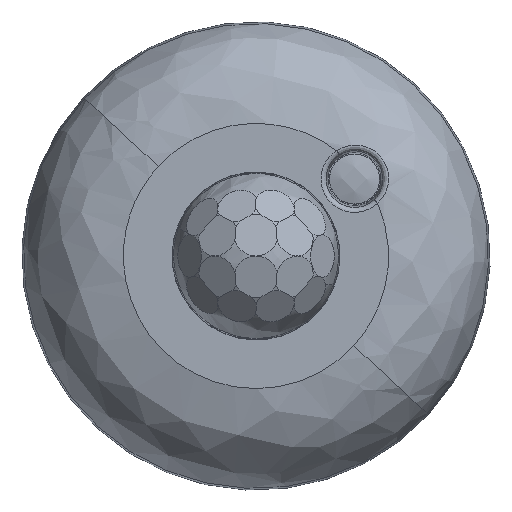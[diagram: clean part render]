
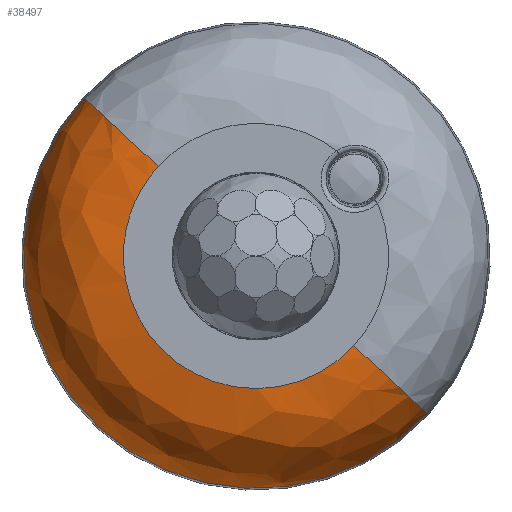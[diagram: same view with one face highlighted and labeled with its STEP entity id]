
A CAD part, front view. The second image highlights one B-rep face of the part: STEP entity #38497.
In plain terms, the highlighted free-form (B-spline) face has degree [3, 3] with [4, 4] control points.
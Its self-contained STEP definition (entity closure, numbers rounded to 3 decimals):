
#276 = VERTEX_POINT ( 'NONE', #60065 ) ;
#1166 = DIRECTION ( 'NONE',  ( -1., 0., 0. ) ) ;
#3761 = CARTESIAN_POINT ( 'NONE',  ( -15.913, -5.539, -7.956 ) ) ;
#4251 = CARTESIAN_POINT ( 'NONE',  ( -22.654, -5.539, -11.327 ) ) ;
#7626 = CARTESIAN_POINT ( 'NONE',  ( 0., 0.461, -7.956 ) ) ;
#10813 = DIRECTION ( 'NONE',  ( 0., 0., 1. ) ) ;
#12055 = CIRCLE ( 'NONE', #57267, 6. ) ;
#14224 = CARTESIAN_POINT ( 'NONE',  ( 0., -5.539, 7.956 ) ) ;
#14803 = CARTESIAN_POINT ( 'NONE',  ( 0., 0.147, 13.948 ) ) ;
#15044 = CARTESIAN_POINT ( 'NONE',  ( -27.897, 0.147, -13.948 ) ) ;
#18815 = EDGE_CURVE ( 'NONE', #30839, #68624, #53705, .T. ) ;
#21555 = CARTESIAN_POINT ( 'NONE',  ( 0., -5.539, -7.956 ) ) ;
#24270 = EDGE_CURVE ( 'NONE', #68801, #276, #12055, .T. ) ;
#24334 =( BOUNDED_SURFACE ( )  B_SPLINE_SURFACE ( 3, 3, ( 
 ( #43850, #15044, #72248, #26558 ),
 ( #49656, #27304, #38078, #55170 ),
 ( #55673, #4251, #67435, #38324 ),
 ( #21555, #3761, #32812, #66440 ) ),
 .UNSPECIFIED., .F., .F., .F. ) 
 B_SPLINE_SURFACE_WITH_KNOTS ( ( 4, 4 ),
 ( 4, 4 ),
 ( 0., 1. ),
 ( 0., 1. ),
 .UNSPECIFIED. ) 
 GEOMETRIC_REPRESENTATION_ITEM ( )  RATIONAL_B_SPLINE_SURFACE ( (
 ( 1., 0.333, 0.333, 1.),
 ( 0.817, 0.272, 0.272, 0.817),
 ( 0.817, 0.272, 0.272, 0.817),
 ( 1., 0.333, 0.333, 1.) ) ) 
 REPRESENTATION_ITEM ( '' )  SURFACE ( )  );
#24859 = EDGE_LOOP ( 'NONE', ( #38420, #45674, #52589, #51976 ) ) ;
#24930 = DIRECTION ( 'NONE',  ( 0., 0., -1. ) ) ;
#26558 = CARTESIAN_POINT ( 'NONE',  ( 0., 0.147, 13.948 ) ) ;
#27304 = CARTESIAN_POINT ( 'NONE',  ( -27.544, -3.219, -13.772 ) ) ;
#27380 = CARTESIAN_POINT ( 'NONE',  ( 0., 0.461, 7.956 ) ) ;
#30839 = VERTEX_POINT ( 'NONE', #14803 ) ;
#31275 = CARTESIAN_POINT ( 'NONE',  ( 0., -5.539, -7.956 ) ) ;
#31639 = AXIS2_PLACEMENT_3D ( 'NONE', #27380, #56498, #10813 ) ;
#32812 = CARTESIAN_POINT ( 'NONE',  ( -15.913, -5.539, 7.956 ) ) ;
#33946 = EDGE_CURVE ( 'NONE', #276, #68624, #36801, .T. ) ;
#34307 = FACE_OUTER_BOUND ( 'NONE', #24859, .T. ) ;
#35087 = DIRECTION ( 'NONE',  ( 0., 0., 1. ) ) ;
#36801 =( BOUNDED_CURVE ( )  B_SPLINE_CURVE ( 3, ( #31275, #71401, #37019, #14224 ),
 .UNSPECIFIED., .F., .F. ) 
 B_SPLINE_CURVE_WITH_KNOTS ( ( 4, 4 ),
 ( 0., 1. ),
 .UNSPECIFIED. ) 
 CURVE ( )  GEOMETRIC_REPRESENTATION_ITEM ( )  RATIONAL_B_SPLINE_CURVE ( ( 1., 0.333, 0.333, 1. ) ) 
 REPRESENTATION_ITEM ( '' )  );
#37019 = CARTESIAN_POINT ( 'NONE',  ( -15.913, -5.539, 7.956 ) ) ;
#38078 = CARTESIAN_POINT ( 'NONE',  ( -27.544, -3.219, 13.772 ) ) ;
#38324 = CARTESIAN_POINT ( 'NONE',  ( 0., -5.539, 11.327 ) ) ;
#38420 = ORIENTED_EDGE ( 'NONE', *, *, #51263, .T. ) ;
#38497 = ADVANCED_FACE ( 'NONE', ( #34307 ), #24334, .T. ) ;
#40842 = DIRECTION ( 'NONE',  ( 0., -1., 0. ) ) ;
#43850 = CARTESIAN_POINT ( 'NONE',  ( 0., 0.147, -13.948 ) ) ;
#45674 = ORIENTED_EDGE ( 'NONE', *, *, #24270, .T. ) ;
#49455 = CARTESIAN_POINT ( 'NONE',  ( 0., -5.539, 7.956 ) ) ;
#49656 = CARTESIAN_POINT ( 'NONE',  ( 0., -3.219, -13.772 ) ) ;
#51263 = EDGE_CURVE ( 'NONE', #30839, #68801, #59946, .T. ) ;
#51338 = AXIS2_PLACEMENT_3D ( 'NONE', #52177, #40842, #35087 ) ;
#51976 = ORIENTED_EDGE ( 'NONE', *, *, #18815, .F. ) ;
#52177 = CARTESIAN_POINT ( 'NONE',  ( 0., 0.147, 0. ) ) ;
#52589 = ORIENTED_EDGE ( 'NONE', *, *, #33946, .T. ) ;
#53705 = CIRCLE ( 'NONE', #31639, 6. ) ;
#55170 = CARTESIAN_POINT ( 'NONE',  ( 0., -3.219, 13.772 ) ) ;
#55673 = CARTESIAN_POINT ( 'NONE',  ( 0., -5.539, -11.327 ) ) ;
#56498 = DIRECTION ( 'NONE',  ( 1., 0., 0. ) ) ;
#57267 = AXIS2_PLACEMENT_3D ( 'NONE', #7626, #1166, #24930 ) ;
#59946 = CIRCLE ( 'NONE', #51338, 13.948 ) ;
#60065 = CARTESIAN_POINT ( 'NONE',  ( 0., -5.539, -7.956 ) ) ;
#62215 = CARTESIAN_POINT ( 'NONE',  ( 0., 0.147, -13.948 ) ) ;
#66440 = CARTESIAN_POINT ( 'NONE',  ( 0., -5.539, 7.956 ) ) ;
#67435 = CARTESIAN_POINT ( 'NONE',  ( -22.654, -5.539, 11.327 ) ) ;
#68624 = VERTEX_POINT ( 'NONE', #49455 ) ;
#68801 = VERTEX_POINT ( 'NONE', #62215 ) ;
#71401 = CARTESIAN_POINT ( 'NONE',  ( -15.913, -5.539, -7.956 ) ) ;
#72248 = CARTESIAN_POINT ( 'NONE',  ( -27.897, 0.147, 13.948 ) ) ;
